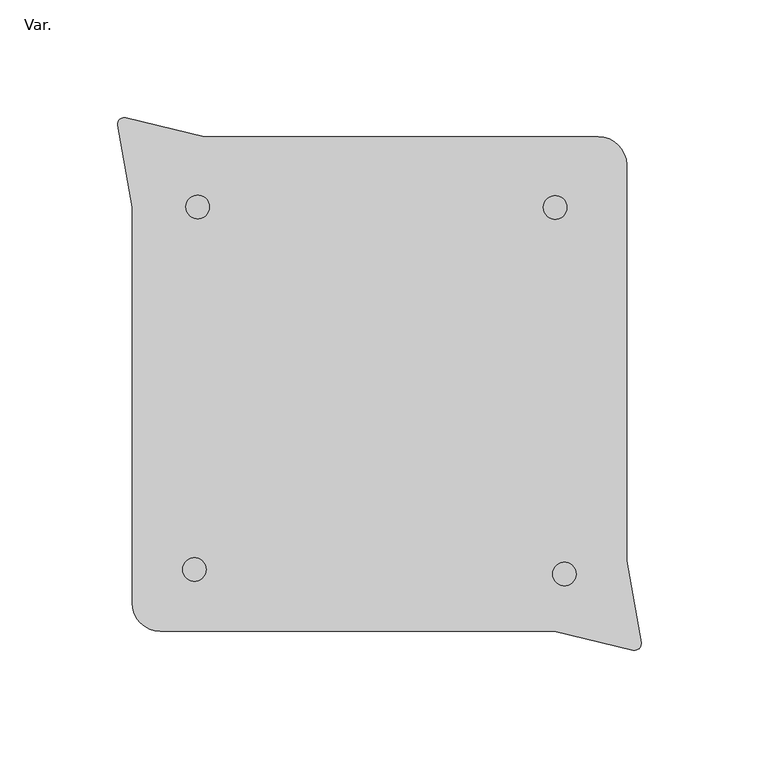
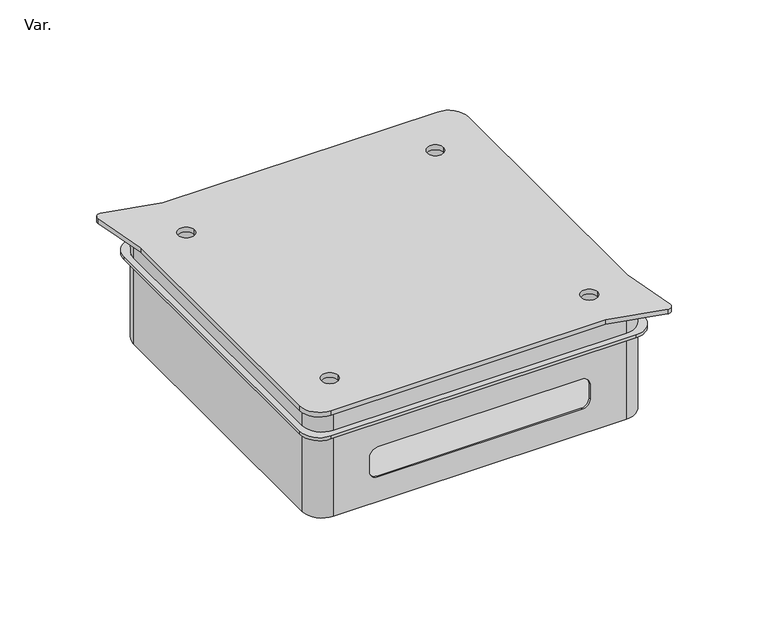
"""IFC4 building model written with IfcOpenShell, lengths in millimetres: cable carrier fitting geometry, PlastigamaWavin_Unionesdetubo_ConduitCaja20x20 : Var.."""

from ifc_helpers import new_model, si_unit, point, frame, frame_2d, origin, place, context, project, spatial, polyline, circle_curve, trimmed, segment, composite_curve, outline, extrude, source, transform, mapped, element, save
from ifc_brep_helpers import plane_surface, cylinder_surface, revolved_surface, advanced_brep


def var_9fea2db4(model_context):
    return source(origin(), model_context, "Body", "SolidModel", [
        extrude(outline(composite_curve([segment(trimmed(circle_curve(frame_2d((-49.8162134, 50.583946)), 7.5), [point((-57.3162134, 50.583946))], [point((-42.3162134, 50.583946))], False, "CARTESIAN"), True, "CONTINUOUS"), segment(trimmed(circle_curve(frame_2d((-49.8162134, 50.583946)), 7.5), [point((-42.3162134, 50.583946))], [point((-57.3162134, 50.583946))], False, "CARTESIAN"), True, "CONTINUOUS")], self_intersect=False)), frame((0.0, 0.0, -29.1782439), z_axis=(0.0, 0.0, 1.0), x_axis=(1.0, 0.0, 0.0)), (0.0, 0.0, 1.0), 2.4282439),
        extrude(outline(composite_curve([segment(trimmed(circle_curve(frame_2d((49.8162134, 50.583946)), 7.5), [point((42.3162134, 50.583946))], [point((57.3162134, 50.583946))], False, "CARTESIAN"), True, "CONTINUOUS"), segment(trimmed(circle_curve(frame_2d((49.8162134, 50.583946)), 7.5), [point((57.3162134, 50.583946))], [point((42.3162134, 50.583946))], False, "CARTESIAN"), True, "CONTINUOUS")], self_intersect=False)), frame((0.0, 0.0, -29.1782439), z_axis=(0.0, 0.0, 1.0), x_axis=(1.0, 0.0, 0.0)), (0.0, 0.0, 1.0), 2.4282439),
        extrude(outline(composite_curve([segment(trimmed(circle_curve(frame_2d((51.5525625, -49.9382105)), 7.5), [point((44.0525625, -49.9382105))], [point((59.0525625, -49.9382105))], False, "CARTESIAN"), True, "CONTINUOUS"), segment(trimmed(circle_curve(frame_2d((51.5525625, -49.9382105)), 7.5), [point((59.0525625, -49.9382105))], [point((44.0525625, -49.9382105))], False, "CARTESIAN"), True, "CONTINUOUS")], self_intersect=False)), frame((0.0, 0.0, -29.1782439), z_axis=(0.0, 0.0, 1.0), x_axis=(1.0, 0.0, 0.0)), (0.0, 0.0, 1.0), 2.4282439),
        extrude(outline(composite_curve([segment(trimmed(circle_curve(frame_2d((-49.8162134, -50.583946)), 7.5), [point((-57.3162134, -50.583946))], [point((-42.3162134, -50.583946))], False, "CARTESIAN"), True, "CONTINUOUS"), segment(trimmed(circle_curve(frame_2d((-49.8162134, -50.583946)), 7.5), [point((-42.3162134, -50.583946))], [point((-57.3162134, -50.583946))], False, "CARTESIAN"), True, "CONTINUOUS")], self_intersect=False)), frame((0.0, 0.0, -29.1782439), z_axis=(0.0, 0.0, 1.0), x_axis=(1.0, 0.0, 0.0)), (0.0, 0.0, 1.0), 2.4282439),
        extrude(outline(composite_curve([segment(trimmed(circle_curve(frame_2d((25.2395418, -49.2804624)), 1.4313517), [point((25.2395418, -47.8491107))], [point((26.6708936, -49.2804624))], False, "CARTESIAN"), True, "CONTINUOUS"), segment(polyline([(26.6708936, -49.2804624), (26.6708936, -51.5877129)]), True, "CONTINUOUS"), segment(trimmed(circle_curve(frame_2d((25.4094958, -51.5877129)), 1.2613977), [point((26.6708936, -51.5877129))], [point((25.4094958, -52.8491107))], False, "CARTESIAN"), True, "CONTINUOUS"), segment(polyline([(25.4094958, -52.8491107), (-25.5031442, -52.8491107)]), True, "CONTINUOUS"), segment(trimmed(circle_curve(frame_2d((-25.5031442, -51.6813613)), 1.1677494), [point((-25.5031442, -52.8491107))], [point((-26.6708936, -51.6813613))], False, "CARTESIAN"), True, "CONTINUOUS"), segment(polyline([(-26.6708936, -51.6813613), (-26.6708936, -49.013277)]), True, "CONTINUOUS"), segment(trimmed(circle_curve(frame_2d((-25.5067272, -49.013277)), 1.1641663), [point((-26.6708936, -49.013277))], [point((-25.5067272, -47.8491107))], False, "CARTESIAN"), True, "CONTINUOUS"), segment(polyline([(-25.5067272, -47.8491107), (25.2395418, -47.8491107)]), True, "CONTINUOUS")], self_intersect=False)), frame((0.0, 0.0, -29.1782439), z_axis=(0.0, 0.0, 1.0), x_axis=(1.0, 0.0, 0.0)), (0.0, 0.0, 1.0), 2.4282439),
        extrude(outline(composite_curve([segment(polyline([(25.2395418, 47.8491107), (-25.5067272, 47.8491107)]), True, "CONTINUOUS"), segment(trimmed(circle_curve(frame_2d((-25.5067272, 49.013277)), 1.1641663), [point((-25.5067272, 47.8491107))], [point((-26.6708936, 49.013277))], False, "CARTESIAN"), True, "CONTINUOUS"), segment(polyline([(-26.6708936, 49.013277), (-26.6708936, 51.6813613)]), True, "CONTINUOUS"), segment(trimmed(circle_curve(frame_2d((-25.5031442, 51.6813613)), 1.1677494), [point((-26.6708936, 51.6813613))], [point((-25.5031442, 52.8491107))], False, "CARTESIAN"), True, "CONTINUOUS"), segment(polyline([(-25.5031442, 52.8491107), (25.4094958, 52.8491107)]), True, "CONTINUOUS"), segment(trimmed(circle_curve(frame_2d((25.4094958, 51.5877129)), 1.2613977), [point((25.4094958, 52.8491107))], [point((26.6708936, 51.5877129))], False, "CARTESIAN"), True, "CONTINUOUS"), segment(polyline([(26.6708936, 51.5877129), (26.6708936, 49.2804624)]), True, "CONTINUOUS"), segment(trimmed(circle_curve(frame_2d((25.2395418, 49.2804624)), 1.4313517), [point((26.6708936, 49.2804624))], [point((25.2395418, 47.8491107))], False, "CARTESIAN"), True, "CONTINUOUS")], self_intersect=False)), frame((0.0, 0.0, -29.1782439), z_axis=(0.0, 0.0, 1.0), x_axis=(1.0, 0.0, 0.0)), (0.0, 0.0, 1.0), 2.4282439),
        extrude(outline(composite_curve([segment(polyline([(48.7044095, -31.3273494), (48.7044095, 33.9046333)]), True, "CONTINUOUS"), segment(trimmed(circle_curve(frame_2d((49.8504793, 33.9046333)), 1.1460698), [point((48.7044095, 33.9046333))], [point((49.8504793, 35.0507031))], False, "CARTESIAN"), True, "CONTINUOUS"), segment(polyline([(49.8504793, 35.0507031), (52.4982342, 35.0507031)]), True, "CONTINUOUS"), segment(trimmed(circle_curve(frame_2d((52.4982342, 33.8445278)), 1.2061753), [point((52.4982342, 35.0507031))], [point((53.7044095, 33.8445278))], False, "CARTESIAN"), True, "CONTINUOUS"), segment(polyline([(53.7044095, 33.8445278), (53.7044095, -31.3589523)]), True, "CONTINUOUS"), segment(trimmed(circle_curve(frame_2d((52.4074531, -31.3589523)), 1.2969564), [point((53.7044095, -31.3589523))], [point((52.4074531, -32.6559087))], False, "CARTESIAN"), True, "CONTINUOUS"), segment(polyline([(52.4074531, -32.6559087), (50.0329688, -32.6559087)]), True, "CONTINUOUS"), segment(trimmed(circle_curve(frame_2d((50.0329688, -31.3273494)), 1.3285593), [point((50.0329688, -32.6559087))], [point((48.7044095, -31.3273494))], False, "CARTESIAN"), True, "CONTINUOUS")], self_intersect=False)), frame((0.0, 0.0, -29.1782439), z_axis=(0.0, 0.0, 1.0), x_axis=(1.0, 0.0, 0.0)), (0.0, 0.0, 1.0), 2.4282439),
        extrude(outline(composite_curve([segment(trimmed(circle_curve(frame_2d((-50.0329688, -31.3273494)), 1.3285593), [point((-48.7044095, -31.3273494))], [point((-50.0329688, -32.6559087))], False, "CARTESIAN"), True, "CONTINUOUS"), segment(polyline([(-50.0329688, -32.6559087), (-52.4074531, -32.6559087)]), True, "CONTINUOUS"), segment(trimmed(circle_curve(frame_2d((-52.4074531, -31.3589523)), 1.2969564), [point((-52.4074531, -32.6559087))], [point((-53.7044095, -31.3589523))], False, "CARTESIAN"), True, "CONTINUOUS"), segment(polyline([(-53.7044095, -31.3589523), (-53.7044095, 33.8445278)]), True, "CONTINUOUS"), segment(trimmed(circle_curve(frame_2d((-52.4982342, 33.8445278)), 1.2061753), [point((-53.7044095, 33.8445278))], [point((-52.4982342, 35.0507031))], False, "CARTESIAN"), True, "CONTINUOUS"), segment(polyline([(-52.4982342, 35.0507031), (-49.8504793, 35.0507031)]), True, "CONTINUOUS"), segment(trimmed(circle_curve(frame_2d((-49.8504793, 33.9046333)), 1.1460698), [point((-49.8504793, 35.0507031))], [point((-48.7044095, 33.9046333))], False, "CARTESIAN"), True, "CONTINUOUS"), segment(polyline([(-48.7044095, 33.9046333), (-48.7044095, -31.3273494)]), True, "CONTINUOUS")], self_intersect=False)), frame((0.0, 0.0, -29.1782439), z_axis=(0.0, 0.0, 1.0), x_axis=(1.0, 0.0, 0.0)), (0.0, 0.0, 1.0), 2.4282439),
        extrude(outline(composite_curve([segment(polyline([(-105.1, -93.1), (-105.1, 75.1), (-111.2367016, 109.9029642)]), True, "CONTINUOUS"), segment(trimmed(circle_curve(frame_2d((-108.4320703, 110.3974964)), 2.8478972), [point((-111.2367016, 109.9029642))], [point((-107.762412, 113.165542))], False, "CARTESIAN"), True, "CONTINUOUS"), segment(polyline([(-107.762412, 113.165542), (-74.4233371, 105.1), (93.1, 105.1)]), True, "CONTINUOUS"), segment(trimmed(circle_curve(frame_2d((93.1, 93.1)), 12.0), [point((93.1, 105.1))], [point((105.1, 93.1))], False, "CARTESIAN"), True, "CONTINUOUS"), segment(polyline([(105.1, 93.1), (105.1, -75.1), (111.2367016, -109.9029642)]), True, "CONTINUOUS"), segment(trimmed(circle_curve(frame_2d((108.4320703, -110.3974964)), 2.8478972), [point((111.2367016, -109.9029642))], [point((107.762412, -113.165542))], False, "CARTESIAN"), True, "CONTINUOUS"), segment(polyline([(107.762412, -113.165542), (74.4233371, -105.1), (-93.1, -105.1)]), True, "CONTINUOUS"), segment(trimmed(circle_curve(frame_2d((-93.1, -93.1)), 12.0), [point((-93.1, -105.1))], [point((-105.1, -93.1))], False, "CARTESIAN"), True, "CONTINUOUS")], self_intersect=False), holes=[composite_curve([segment(trimmed(circle_curve(frame_2d((-77.2172748, 75.3139812)), 5.0), [point((-82.2172748, 75.3139812))], [point((-72.2172748, 75.3139812))], True, "CARTESIAN"), True, "CONTINUOUS"), segment(trimmed(circle_curve(frame_2d((-77.2172748, 75.3139812)), 5.0), [point((-72.2172748, 75.3139812))], [point((-82.2172748, 75.3139812))], True, "CARTESIAN"), True, "CONTINUOUS")], self_intersect=False), composite_curve([segment(trimmed(circle_curve(frame_2d((74.7419553, 75.0664493)), 5.0), [point((69.7419553, 75.0664493))], [point((79.7419553, 75.0664493))], True, "CARTESIAN"), True, "CONTINUOUS"), segment(trimmed(circle_curve(frame_2d((74.7419553, 75.0664493)), 5.0), [point((79.7419553, 75.0664493))], [point((69.7419553, 75.0664493))], True, "CARTESIAN"), True, "CONTINUOUS")], self_intersect=False), composite_curve([segment(trimmed(circle_curve(frame_2d((78.6885484, -80.8134955)), 5.0), [point((73.6885484, -80.8134955))], [point((83.6885484, -80.8134955))], True, "CARTESIAN"), True, "CONTINUOUS"), segment(trimmed(circle_curve(frame_2d((78.6885484, -80.8134955)), 5.0), [point((83.6885484, -80.8134955))], [point((73.6885484, -80.8134955))], True, "CARTESIAN"), True, "CONTINUOUS")], self_intersect=False), composite_curve([segment(trimmed(circle_curve(frame_2d((-78.6056062, -78.8762889)), 5.0), [point((-83.6056062, -78.8762889))], [point((-73.6056062, -78.8762889))], True, "CARTESIAN"), True, "CONTINUOUS"), segment(trimmed(circle_curve(frame_2d((-78.6056062, -78.8762889)), 5.0), [point((-73.6056062, -78.8762889))], [point((-83.6056062, -78.8762889))], True, "CARTESIAN"), True, "CONTINUOUS")], self_intersect=False)]), frame((0.0, 0.0, 42.05), z_axis=(0.0, 0.0, 1.0), x_axis=(1.0, 0.0, 0.0)), (0.0, 0.0, 1.0), 3.0),
        extrude(outline(composite_curve([segment(polyline([(-101.35, -89.35), (-101.35, 89.35)]), True, "CONTINUOUS"), segment(trimmed(circle_curve(frame_2d((-89.35, 89.35)), 12.0), [point((-101.35, 89.35))], [point((-89.35, 101.35))], False, "CARTESIAN"), True, "CONTINUOUS"), segment(polyline([(-89.35, 101.35), (89.35, 101.35)]), True, "CONTINUOUS"), segment(trimmed(circle_curve(frame_2d((89.35, 89.35)), 12.0), [point((89.35, 101.35))], [point((101.35, 89.35))], False, "CARTESIAN"), True, "CONTINUOUS"), segment(polyline([(101.35, 89.35), (101.35, -89.35)]), True, "CONTINUOUS"), segment(trimmed(circle_curve(frame_2d((89.35, -89.35)), 12.0), [point((101.35, -89.35))], [point((89.35, -101.35))], False, "CARTESIAN"), True, "CONTINUOUS"), segment(polyline([(89.35, -101.35), (-89.35, -101.35)]), True, "CONTINUOUS"), segment(trimmed(circle_curve(frame_2d((-89.35, -89.35)), 12.0), [point((-89.35, -101.35))], [point((-101.35, -89.35))], False, "CARTESIAN"), True, "CONTINUOUS")], self_intersect=False), holes=[composite_curve([segment(trimmed(circle_curve(frame_2d((-77.2172748, 75.3139812)), 5.0), [point((-82.2172748, 75.3139812))], [point((-72.2172748, 75.3139812))], True, "CARTESIAN"), True, "CONTINUOUS"), segment(trimmed(circle_curve(frame_2d((-77.2172748, 75.3139812)), 5.0), [point((-72.2172748, 75.3139812))], [point((-82.2172748, 75.3139812))], True, "CARTESIAN"), True, "CONTINUOUS")], self_intersect=False), composite_curve([segment(trimmed(circle_curve(frame_2d((74.7419553, 75.0664493)), 5.0), [point((69.7419553, 75.0664493))], [point((79.7419553, 75.0664493))], True, "CARTESIAN"), True, "CONTINUOUS"), segment(trimmed(circle_curve(frame_2d((74.7419553, 75.0664493)), 5.0), [point((79.7419553, 75.0664493))], [point((69.7419553, 75.0664493))], True, "CARTESIAN"), True, "CONTINUOUS")], self_intersect=False), composite_curve([segment(trimmed(circle_curve(frame_2d((78.6885484, -80.8134955)), 5.0), [point((73.6885484, -80.8134955))], [point((83.6885484, -80.8134955))], True, "CARTESIAN"), True, "CONTINUOUS"), segment(trimmed(circle_curve(frame_2d((78.6885484, -80.8134955)), 5.0), [point((83.6885484, -80.8134955))], [point((73.6885484, -80.8134955))], True, "CARTESIAN"), True, "CONTINUOUS")], self_intersect=False), composite_curve([segment(trimmed(circle_curve(frame_2d((-78.6056062, -78.8762889)), 5.0), [point((-83.6056062, -78.8762889))], [point((-73.6056062, -78.8762889))], True, "CARTESIAN"), True, "CONTINUOUS"), segment(trimmed(circle_curve(frame_2d((-78.6056062, -78.8762889)), 5.0), [point((-73.6056062, -78.8762889))], [point((-83.6056062, -78.8762889))], True, "CARTESIAN"), True, "CONTINUOUS")], self_intersect=False)]), frame((0.0, 0.0, 28.75), z_axis=(0.0, 0.0, 1.0), x_axis=(1.0, 0.0, 0.0)), (0.0, 0.0, 1.0), 13.3),
        extrude(outline(composite_curve([segment(polyline([(-105.1, -93.1), (-105.1, 93.1)]), True, "CONTINUOUS"), segment(trimmed(circle_curve(frame_2d((-93.1, 93.1)), 12.0), [point((-105.1, 93.1))], [point((-93.1, 105.1))], False, "CARTESIAN"), True, "CONTINUOUS"), segment(polyline([(-93.1, 105.1), (93.1, 105.1)]), True, "CONTINUOUS"), segment(trimmed(circle_curve(frame_2d((93.1, 93.1)), 12.0), [point((93.1, 105.1))], [point((105.1, 93.1))], False, "CARTESIAN"), True, "CONTINUOUS"), segment(polyline([(105.1, 93.1), (105.1, -93.1)]), True, "CONTINUOUS"), segment(trimmed(circle_curve(frame_2d((93.1, -93.1)), 12.0), [point((105.1, -93.1))], [point((93.1, -105.1))], False, "CARTESIAN"), True, "CONTINUOUS"), segment(polyline([(93.1, -105.1), (-93.1, -105.1)]), True, "CONTINUOUS"), segment(trimmed(circle_curve(frame_2d((-93.1, -93.1)), 12.0), [point((-93.1, -105.1))], [point((-105.1, -93.1))], False, "CARTESIAN"), True, "CONTINUOUS")], self_intersect=False), holes=[composite_curve([segment(trimmed(circle_curve(frame_2d((-88.35, -88.35)), 12.0), [point((-100.35, -88.35))], [point((-88.35, -100.35))], True, "CARTESIAN"), True, "CONTINUOUS"), segment(polyline([(-88.35, -100.35), (88.35, -100.35)]), True, "CONTINUOUS"), segment(trimmed(circle_curve(frame_2d((88.35, -88.35)), 12.0), [point((88.35, -100.35))], [point((100.35, -88.35))], True, "CARTESIAN"), True, "CONTINUOUS"), segment(polyline([(100.35, -88.35), (100.35, 88.35)]), True, "CONTINUOUS"), segment(trimmed(circle_curve(frame_2d((88.35, 88.35)), 12.0), [point((100.35, 88.35))], [point((88.35, 100.35))], True, "CARTESIAN"), True, "CONTINUOUS"), segment(polyline([(88.35, 100.35), (-88.35, 100.35)]), True, "CONTINUOUS"), segment(trimmed(circle_curve(frame_2d((-88.35, 88.35)), 12.0), [point((-88.35, 100.35))], [point((-100.35, 88.35))], True, "CARTESIAN"), True, "CONTINUOUS"), segment(polyline([(-100.35, 88.35), (-100.35, -88.35)]), True, "CONTINUOUS")], self_intersect=False)]), frame((0.0, 0.0, 26.75), z_axis=(0.0, 0.0, 1.0), x_axis=(1.0, 0.0, 0.0)), (0.0, 0.0, 1.0), 2.0),
        advanced_brep(
        [(-101.35, -89.35, 26.75), (-89.35, -101.35, 26.75), (89.35, -101.35, 26.75), (101.35, -89.35, 26.75), (101.35, 89.35, 26.75), (89.35, 101.35, 26.75), (-89.35, 101.35, 26.75), (-101.35, 89.35, 26.75), (-88.35, -100.35, 26.75), (-100.35, -88.35, 26.75), (-100.35, 88.35, 26.75), (-88.35, 100.35, 26.75), (88.35, 100.35, 26.75), (100.35, 88.35, 26.75), (100.35, -88.35, 26.75), (88.35, -100.35, 26.75), (-101.35, -89.35, -26.75), (-101.35, 89.35, -26.75), (-89.35, 101.35, -26.75), (89.35, 101.35, -26.75), (101.35, 89.35, -26.75), (101.35, -89.35, -26.75), (89.35, -101.35, -26.75), (-89.35, -101.35, -26.75), (-62.25, -101.35, -10.85), (-67.25, -101.35, -5.85), (-67.25, -101.35, 3.55), (-62.25, -101.35, 8.55), (62.2875731, -101.35, 8.55), (67.25, -101.35, 3.5875731), (67.25, -101.35, -5.8875731), (62.2875731, -101.35, -10.85), (-100.35, -88.35, -21.9228372), (-88.35, -100.35, -21.9228372), (88.35, -100.35, -21.9228372), (100.35, -88.35, -21.9228372), (100.35, 88.35, -21.9228372), (88.35, 100.35, -21.9228372), (-88.35, 100.35, -21.9228372), (-100.35, 88.35, -21.9228372), (-67.25, -100.35, -5.85), (-62.25, -100.35, -10.85), (62.2875731, -100.35, -10.85), (67.25, -100.35, -5.8875731), (67.25, -100.35, 3.5875731), (62.2875731, -100.35, 8.55), (-62.25, -100.35, 8.55), (-67.25, -100.35, 3.55)],
        [
            (0, 1, circle_curve(frame((-89.35, -89.35, 26.75), z_axis=(0.0, 0.0, 1.0), x_axis=(1.0, 0.0, 0.0)), 12.0)),
            (1, 2),
            (2, 3, circle_curve(frame((89.35, -89.35, 26.75), z_axis=(0.0, 0.0, 1.0), x_axis=(1.0, 0.0, 0.0)), 12.0)),
            (3, 4),
            (4, 5, circle_curve(frame((89.35, 89.35, 26.75), z_axis=(0.0, 0.0, 1.0), x_axis=(1.0, 0.0, 0.0)), 12.0)),
            (5, 6),
            (6, 7, circle_curve(frame((-89.35, 89.35, 26.75), z_axis=(0.0, 0.0, 1.0), x_axis=(1.0, 0.0, 0.0)), 12.0)),
            (7, 0),
            (8, 9, circle_curve(frame((-88.35, -88.35, 26.75), z_axis=(0.0, 0.0, -1.0), x_axis=(1.0, 0.0, 0.0)), 12.0)),
            (9, 10),
            (10, 11, circle_curve(frame((-88.35, 88.35, 26.75), z_axis=(0.0, 0.0, -1.0), x_axis=(1.0, 0.0, 0.0)), 12.0)),
            (11, 12),
            (12, 13, circle_curve(frame((88.35, 88.35, 26.75), z_axis=(0.0, 0.0, -1.0), x_axis=(1.0, 0.0, 0.0)), 12.0)),
            (13, 14),
            (14, 15, circle_curve(frame((88.35, -88.35, 26.75), z_axis=(0.0, 0.0, -1.0), x_axis=(1.0, 0.0, 0.0)), 12.0)),
            (15, 8),
            (16, 17),
            (17, 18, circle_curve(frame((-89.35, 89.35, -26.75), z_axis=(0.0, 0.0, -1.0), x_axis=(1.0, 0.0, 0.0)), 12.0)),
            (18, 19),
            (19, 20, circle_curve(frame((89.35, 89.35, -26.75), z_axis=(0.0, 0.0, -1.0), x_axis=(1.0, 0.0, 0.0)), 12.0)),
            (20, 21),
            (21, 22, circle_curve(frame((89.35, -89.35, -26.75), z_axis=(0.0, 0.0, -1.0), x_axis=(1.0, 0.0, 0.0)), 12.0)),
            (22, 23),
            (23, 16, circle_curve(frame((-89.35, -89.35, -26.75), z_axis=(0.0, 0.0, -1.0), x_axis=(1.0, 0.0, 0.0)), 12.0)),
            (0, 16),
            (23, 1),
            (22, 2),
            (24, 25, circle_curve(frame((-62.25, -101.35, -5.85), z_axis=(0.0, 1.0, 0.0), x_axis=(1.0, 0.0, 0.0)), 5.0)),
            (25, 26),
            (26, 27, circle_curve(frame((-62.25, -101.35, 3.55), z_axis=(0.0, 1.0, 0.0), x_axis=(1.0, 0.0, 0.0)), 5.0)),
            (27, 28),
            (28, 29, circle_curve(frame((62.2875731, -101.35, 3.5875731), z_axis=(0.0, 1.0, 0.0), x_axis=(1.0, 0.0, 0.0)), 4.9624269)),
            (29, 30),
            (30, 31, circle_curve(frame((62.2875731, -101.35, -5.8875731), z_axis=(0.0, 1.0, 0.0), x_axis=(1.0, 0.0, 0.0)), 4.9624269)),
            (31, 24),
            (21, 3),
            (20, 4),
            (19, 5),
            (18, 6),
            (17, 7),
            (32, 33, circle_curve(frame((-88.35, -88.35, -21.9228372), z_axis=(0.0, 0.0, 1.0), x_axis=(1.0, 0.0, 0.0)), 12.0)),
            (33, 34),
            (34, 35, circle_curve(frame((88.35, -88.35, -21.9228372), z_axis=(0.0, 0.0, 1.0), x_axis=(1.0, 0.0, 0.0)), 12.0)),
            (35, 36),
            (36, 37, circle_curve(frame((88.35, 88.35, -21.9228372), z_axis=(0.0, 0.0, 1.0), x_axis=(1.0, 0.0, 0.0)), 12.0)),
            (37, 38),
            (38, 39, circle_curve(frame((-88.35, 88.35, -21.9228372), z_axis=(0.0, 0.0, 1.0), x_axis=(1.0, 0.0, 0.0)), 12.0)),
            (39, 32),
            (32, 9),
            (8, 33),
            (15, 34),
            (40, 41, circle_curve(frame((-62.25, -100.35, -5.85), z_axis=(0.0, -1.0, 0.0), x_axis=(1.0, 0.0, 0.0)), 5.0)),
            (41, 42),
            (42, 43, circle_curve(frame((62.2875731, -100.35, -5.8875731), z_axis=(0.0, -1.0, 0.0), x_axis=(1.0, 0.0, 0.0)), 4.9624269)),
            (43, 44),
            (44, 45, circle_curve(frame((62.2875731, -100.35, 3.5875731), z_axis=(0.0, -1.0, 0.0), x_axis=(1.0, 0.0, 0.0)), 4.9624269)),
            (45, 46),
            (46, 47, circle_curve(frame((-62.25, -100.35, 3.55), z_axis=(0.0, -1.0, 0.0), x_axis=(1.0, 0.0, 0.0)), 5.0)),
            (47, 40),
            (14, 35),
            (13, 36),
            (12, 37),
            (11, 38),
            (10, 39),
            (40, 25),
            (24, 41),
            (31, 42),
            (30, 43),
            (29, 44),
            (28, 45),
            (27, 46),
            (26, 47),
        ],
        [
            plane_surface(frame((-77.35, -89.35, 26.75), z_axis=(0.0, 0.0, 1.0), x_axis=(0.0, 1.0, 0.0))),
            plane_surface(frame((-77.35, -89.35, -26.75), z_axis=(0.0, 0.0, -1.0), x_axis=(0.0, -1.0, 0.0))),
            cylinder_surface(frame((-89.35, -89.35, -26.75), z_axis=(0.0, 0.0, 1.0), x_axis=(1.0, 0.0, 0.0)), 12.0),
            plane_surface(frame((-89.35, -101.35, 26.75), z_axis=(0.0, -1.0, 0.0), x_axis=(0.0, 0.0, -1.0))),
            cylinder_surface(frame((89.35, -89.35, -26.75), z_axis=(0.0, 0.0, 1.0), x_axis=(1.0, 0.0, 0.0)), 12.0),
            plane_surface(frame((101.35, -89.35, 26.75), z_axis=(1.0, 0.0, 0.0), x_axis=(0.0, 0.0, -1.0))),
            cylinder_surface(frame((89.35, 89.35, -26.75), z_axis=(0.0, 0.0, 1.0), x_axis=(1.0, 0.0, 0.0)), 12.0),
            plane_surface(frame((89.35, 101.35, 26.75), z_axis=(0.0, 1.0, 0.0), x_axis=(0.0, 0.0, -1.0))),
            cylinder_surface(frame((-89.35, 89.35, -26.75), z_axis=(0.0, 0.0, 1.0), x_axis=(1.0, 0.0, 0.0)), 12.0),
            plane_surface(frame((-101.35, 89.35, 26.75), z_axis=(-1.0, 0.0, 0.0), x_axis=(0.0, 0.0, -1.0))),
            plane_surface(frame((-76.35, -88.35, -21.9228372), z_axis=(0.0, 0.0, 1.0), x_axis=(0.0, -1.0, 0.0))),
            revolved_surface(polyline([(-76.35, -88.35, 26.750000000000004), (-76.35, -88.35, -21.9228372)]), (-88.35, -88.35, -21.9228372), (0.0, 0.0, 1.0)),
            plane_surface(frame((-88.35, -100.35, 28.75), z_axis=(0.0, 1.0, 0.0), x_axis=(0.0, 0.0, -1.0))),
            revolved_surface(polyline([(100.35, -88.35, 26.750000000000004), (100.35, -88.35, -21.9228372)]), (88.35, -88.35, -21.9228372), (0.0, 0.0, 1.0)),
            plane_surface(frame((100.35, -88.35, 28.75), z_axis=(-1.0, 0.0, 0.0), x_axis=(0.0, 0.0, -1.0))),
            revolved_surface(polyline([(100.35, 88.35, 26.750000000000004), (100.35, 88.35, -21.9228372)]), (88.35, 88.35, -21.9228372), (0.0, 0.0, 1.0)),
            plane_surface(frame((88.35, 100.35, 28.75), z_axis=(0.0, -1.0, 0.0), x_axis=(0.0, 0.0, -1.0))),
            revolved_surface(polyline([(-76.35, 88.35, 26.750000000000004), (-76.35, 88.35, -21.9228372)]), (-88.35, 88.35, -21.9228372), (0.0, 0.0, 1.0)),
            plane_surface(frame((-100.35, 88.35, 28.75), z_axis=(1.0, 0.0, 0.0), x_axis=(0.0, 0.0, -1.0))),
            revolved_surface(polyline([(-57.25, -101.35, -5.85), (-57.25, -100.35, -5.85)]), (-62.25, 0.0, -5.85), (0.0, -1.0, 0.0)),
            plane_surface(frame((-62.25, -250.0, -10.85), z_axis=(0.0, 0.0, 1.0), x_axis=(0.0, 1.0, 0.0))),
            revolved_surface(polyline([(67.25, -101.35, -5.8875731), (67.25, -100.35, -5.8875731)]), (62.2875731, 0.0, -5.8875731), (0.0, -1.0, 0.0)),
            plane_surface(frame((67.25, -250.0, -5.8875731), z_axis=(-1.0, 0.0, 0.0), x_axis=(0.0, 1.0, 0.0))),
            revolved_surface(polyline([(67.25, -101.35, 3.5875731), (67.25, -100.35, 3.5875731)]), (62.2875731, 0.0, 3.5875731), (0.0, -1.0, 0.0)),
            plane_surface(frame((62.2875731, -250.0, 8.55), z_axis=(0.0, 0.0, -1.0), x_axis=(0.0, 1.0, 0.0))),
            revolved_surface(polyline([(-57.25, -101.35, 3.55), (-57.25, -100.35, 3.55)]), (-62.25, 0.0, 3.55), (0.0, -1.0, 0.0)),
            plane_surface(frame((-67.25, -250.0, 3.55), z_axis=(1.0, 0.0, 0.0), x_axis=(0.0, 1.0, 0.0))),
        ],
        [
            (0, [[1, 2, 3, 4, 5, 6, 7, 8], [9, 10, 11, 12, 13, 14, 15, 16]]),
            (1, [[17, 18, 19, 20, 21, 22, 23, 24]]),
            (2, [[-1, 25, -24, 26]]),
            (3, [[-2, -26, -23, 27], [28, 29, 30, 31, 32, 33, 34, 35]]),
            (4, [[-3, -27, -22, 36]]),
            (5, [[-4, -36, -21, 37]]),
            (6, [[-5, -37, -20, 38]]),
            (7, [[-6, -38, -19, 39]]),
            (8, [[-7, -39, -18, 40]]),
            (9, [[-8, -40, -17, -25]]),
            (10, [[41, 42, 43, 44, 45, 46, 47, 48]]),
            (11, [[-41, 49, -9, 50]]),
            (12, [[-42, -50, -16, 51], [52, 53, 54, 55, 56, 57, 58, 59]]),
            (13, [[-43, -51, -15, 60]]),
            (14, [[-44, -60, -14, 61]]),
            (15, [[-45, -61, -13, 62]]),
            (16, [[-46, -62, -12, 63]]),
            (17, [[-47, -63, -11, 64]]),
            (18, [[-48, -64, -10, -49]]),
            (19, [[65, -28, 66, -52]]),
            (20, [[-66, -35, 67, -53]]),
            (21, [[-67, -34, 68, -54]]),
            (22, [[-68, -33, 69, -55]]),
            (23, [[-69, -32, 70, -56]]),
            (24, [[-70, -31, 71, -57]]),
            (25, [[-71, -30, 72, -58]]),
            (26, [[-65, -59, -72, -29]]),
        ],
    ),
    ])


if __name__ == "__main__":
    model = new_model("IFC4")
    model_context = context("Model", 3, world=origin())
    ifc_project = project(units=[si_unit("LENGTHUNIT", "METRE", prefix="MILLI")], contexts=[model_context])
    site = spatial("IfcSite", under=ifc_project)
    building = spatial("IfcBuilding", under=site)
    placement = place(None, origin())
    var_shape = var_9fea2db4(model_context)
    element("IfcCableCarrierFitting", 1, ObjectType="PlastigamaWavin_Unionesdetubo_ConduitCaja20x20 : Var.", at=placement, inside=building, context=model_context, shape_type="MappedRepresentation", body=[
        mapped(var_shape, transform((0.0, 0.0, 0.0), x_axis=(1.0, 0.0, 0.0), y_axis=(0.0, 1.0, 0.0), z_axis=(0.0, 0.0, 1.0))),
    ])
    save(model, "model.ifc")
